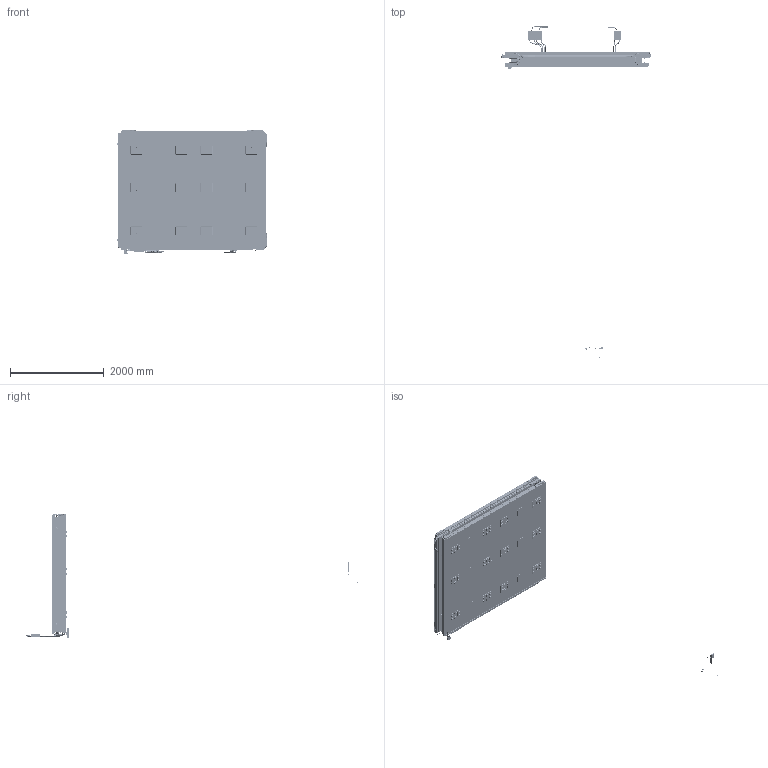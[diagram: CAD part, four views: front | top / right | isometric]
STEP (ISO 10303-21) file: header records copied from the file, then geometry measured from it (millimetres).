
FILE_DESCRIPTION(/* description */ (''),/* implementation_level */ '2;1');
FILE_NAME(/* name */ 'mb3_-2_3_4_R.stp',/* time_stamp */ '2017-05-19T11:29:46+02:00',/* author */ (''),/* organization */ (''),/* preprocessor_version */ 'ST-DEVELOPER v16',/* originating_system */ 'SIEMENS PLM Software NX 10.0',/* authorisation */ '');
FILE_SCHEMA (('AUTOMOTIVE_DESIGN { 1 0 10303 214 3 1 1 1 }'));
Products named in the file (209): BLK696; BLK695; BLK694; BLK693; piastra_0011_spess; piastra_0011; spina_5x26; elicoil; connett_fe_littl; power_supply_model; tappo1_4; connett_test_p; mb45_phi_lam_vars; mb3c_phi_lam_vars; mb3_phi_lam_vars; mb2c_th_lam_vars; mb2c_phi_lam_vars; mb2_th_lam_vars; mb2_phi_lam_vars; mb3c_th_lam_vars; mb45c_phi_lam_vars; mb3_th_lam_vars; mb48_phi_lam_vars; mb1_phi_lam_vars; mb1_th_lam_vars; mb49_phi_lam_vars; mb1c_phi_lam_vars; mb1c_th_lam_vars; cover_new2; axis; tappo1_8; colon_front_000308; block_sh12_000301; corpo_elbow; txt_2_lung; w3s_hc_skin; w3s_hc_core; cms_mb_02_030; cms_mb_02_017; cms_mb_02_013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
Assembly tree (456 placements, depth 7):
  030930_mb3_-2_3_4_phi_R_carters
    mb3_-2_3_4_ass
      mb3_-2_3_4_ch
        mb3_phi_superlay  x2
          mb3_q1_ass_lamiere
            mb3_q1_b1
            mb3_q1_b1_up
            cms_mb_02_019  x4
          mb3_q1_ass_lateral
            as_angle  x2
              block_sh12_000301
              colon_front_000308
            cms_mb_02_014
          vite_m4
          mb3_q1_cover_hv_ass
            cms_mb_02_028
            cms_mb_02_023
              tappo1_8  x2
              axis  x43
            as_hv_conn_cover  x2
              cover_new2
          vars
            mb1c_th_vars
              mb1c_th_lam_vars
            mb1c_phi_vars
              mb1c_phi_lam_vars
            mb49_phi_vars
              mb49_phi_lam_vars
            mb1_th_vars
              mb1_th_lam_vars
            mb1_phi_vars
              mb1_phi_lam_vars
            mb48_phi_vars
              mb48_phi_lam_vars
            mb3_th_vars
              mb3_th_lam_vars
            mb45c_phi_vars
              mb45c_phi_lam_vars
            mb3c_th_vars
              mb3c_th_lam_vars
            mb2_phi_vars
              mb2_phi_lam_vars
            mb2_th_vars
              mb2_th_lam_vars
            mb2c_phi_vars
              mb2c_phi_lam_vars
            mb2c_th_vars
              mb2c_th_lam_vars
            mb3_phi_vars
              mb3_phi_lam_vars
            mb3c_phi_vars
              mb3c_phi_lam_vars
            mb45_phi_vars
              mb45_phi_lam_vars
          3054_ass
            3054_cms_mb_02_044
              axis  x47
              connett_test_p  x5
              tappo1_4  x2
              tappo1_8  x2
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Bounding box: 3212.36 x 7101.19 x 2658.52 mm (x, y, z)
Volume: 2229631804.3 mm3; surface area: 222156084.9 mm2
Topology: 247 solids, 674 shells, 16473 faces, 51650 edges, 41899 vertices
Faces by surface type: plane 9958, cylinder 4713, cone 1281, torus 294, bspline 180, sphere 47
Full cylindrical faces by diameter (mm): 1 x251, 1.675 x12, 2.594 x54, 3 x72, 3.2 x12, 3.25 x4, 3.3 x36, 3.432 x527, 3.5 x54, 3.778 x7, 4 x35, 5 x39, 5.188 x56, 5.5 x286, 6 x29, 6.4 x30, 6.5 x2, 7 x3, 7.5 x72, 8 x55, 8.6 x6, 8.782 x28, 8.8 x20, 8.933 x24, 8.985 x24, 9 x2, 9.391 x16, 9.5 x3, 10 x9, 10.287 x12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
Entity records: 359384 total; most frequent: CARTESIAN_POINT 107259, ORIENTED_EDGE 43099, DIRECTION 40833, EDGE_CURVE 22044, AXIS2_PLACEMENT_3D 15148, VERTEX_POINT 13893, EDGE_LOOP 12259, B_SPLINE_CURVE_WITH_KNOTS 11639
